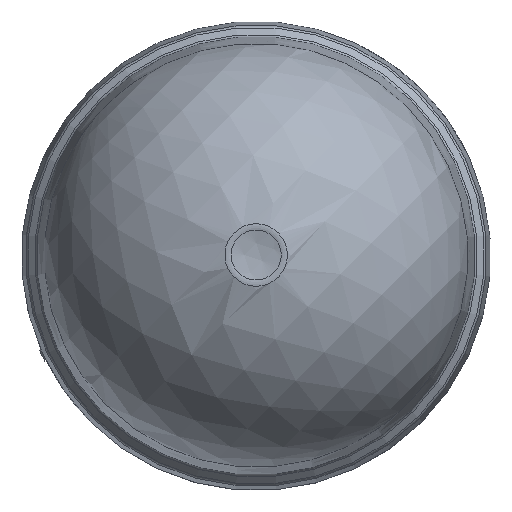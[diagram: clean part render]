
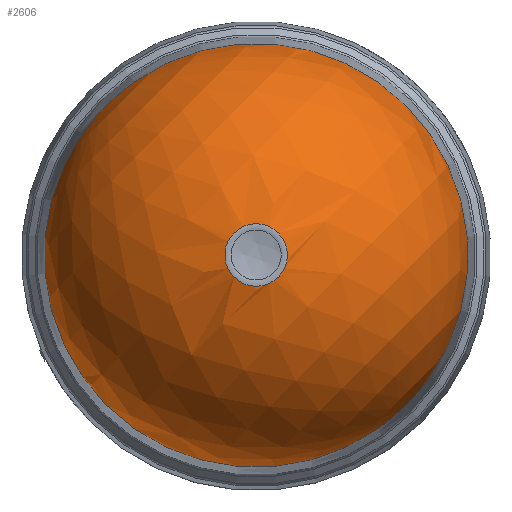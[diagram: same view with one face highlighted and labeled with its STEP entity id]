
A CAD part, top view. The second image highlights one B-rep face of the part: STEP entity #2606.
In plain terms, the highlighted spherical face has radius 28.039 mm.
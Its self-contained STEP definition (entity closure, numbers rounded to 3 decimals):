
#15=SPHERICAL_SURFACE('',#2813,28.039);
#45=FACE_BOUND('',#761,.T.);
#616=FACE_OUTER_BOUND('',#760,.T.);
#760=EDGE_LOOP('',(#2288,#2289));
#761=EDGE_LOOP('',(#2290));
#866=CIRCLE('',#2809,4.129);
#869=CIRCLE('',#2814,28.001);
#870=CIRCLE('',#2815,28.001);
#1202=VERTEX_POINT('',#5080);
#1204=VERTEX_POINT('',#5087);
#1205=VERTEX_POINT('',#5088);
#1567=EDGE_CURVE('',#1202,#1202,#866,.T.);
#1570=EDGE_CURVE('',#1204,#1205,#869,.T.);
#1571=EDGE_CURVE('',#1205,#1204,#870,.T.);
#2288=ORIENTED_EDGE('',*,*,#1570,.F.);
#2289=ORIENTED_EDGE('',*,*,#1571,.F.);
#2290=ORIENTED_EDGE('',*,*,#1567,.F.);
#2606=ADVANCED_FACE('',(#616,#45),#15,.T.);
#2809=AXIS2_PLACEMENT_3D('',#5081,#3372,#3373);
#2813=AXIS2_PLACEMENT_3D('',#5086,#3380,#3381);
#2814=AXIS2_PLACEMENT_3D('',#5089,#3382,#3383);
#2815=AXIS2_PLACEMENT_3D('',#5090,#3384,#3385);
#3372=DIRECTION('center_axis',(0.,0.,
1.));
#3373=DIRECTION('ref_axis',(0.707,-0.707,0.));
#3380=DIRECTION('center_axis',(-0.707,0.707,0.));
#3381=DIRECTION('ref_axis',(-0.707,-0.707,0.));
#3382=DIRECTION('center_axis',(0.,0.,
-1.));
#3383=DIRECTION('ref_axis',(-0.707,-0.707,0.));
#3384=DIRECTION('center_axis',(0.,0.,
-1.));
#3385=DIRECTION('ref_axis',(-0.707,-0.707,0.));
#5080=CARTESIAN_POINT('',(7.08,2.92,58.944));
#5081=CARTESIAN_POINT('Origin',(10.,0.,
58.944));
#5086=CARTESIAN_POINT('Origin',(10.,0.,
31.211));
#5087=CARTESIAN_POINT('',(-9.8,-19.8,32.678));
#5088=CARTESIAN_POINT('',(29.8,19.8,32.678));
#5089=CARTESIAN_POINT('Origin',(10.,0.,
32.678));
#5090=CARTESIAN_POINT('Origin',(10.,0.,
32.678));
